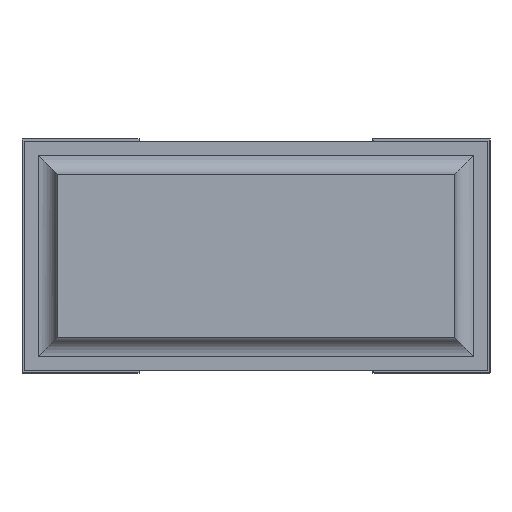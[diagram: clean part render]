
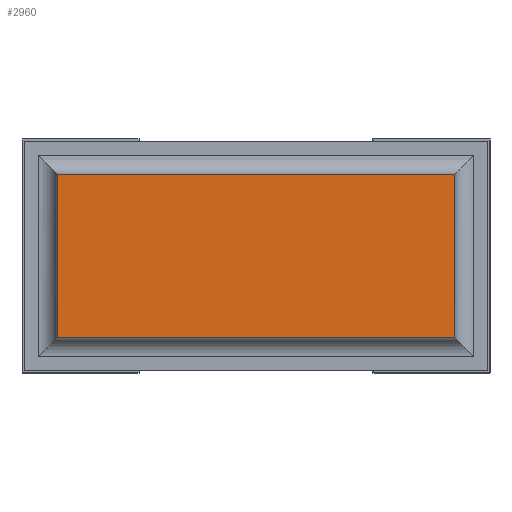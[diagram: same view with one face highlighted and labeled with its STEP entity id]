
A CAD part, front view. The second image highlights one B-rep face of the part: STEP entity #2960.
In plain terms, the highlighted planar face has unit normal (0, -1, 0).
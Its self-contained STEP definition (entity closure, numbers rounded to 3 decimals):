
#186=FACE_OUTER_BOUND('',#351,.T.);
#351=EDGE_LOOP('',(#2277,#2278,#2279,#2280));
#599=LINE('',#4473,#973);
#603=LINE('',#4487,#977);
#612=LINE('',#4503,#986);
#613=LINE('',#4505,#987);
#973=VECTOR('',#3626,10.);
#977=VECTOR('',#3638,10.);
#986=VECTOR('',#3653,10.);
#987=VECTOR('',#3656,10.);
#1315=VERTEX_POINT('',#4469);
#1316=VERTEX_POINT('',#4471);
#1321=VERTEX_POINT('',#4484);
#1322=VERTEX_POINT('',#4486);
#1653=EDGE_CURVE('',#1315,#1316,#599,.T.);
#1659=EDGE_CURVE('',#1321,#1322,#603,.T.);
#1668=EDGE_CURVE('',#1315,#1321,#612,.T.);
#1669=EDGE_CURVE('',#1322,#1316,#613,.T.);
#2277=ORIENTED_EDGE('',*,*,#1659,.F.);
#2278=ORIENTED_EDGE('',*,*,#1668,.F.);
#2279=ORIENTED_EDGE('',*,*,#1653,.T.);
#2280=ORIENTED_EDGE('',*,*,#1669,.F.);
#2819=PLANE('',#3177);
#2960=ADVANCED_FACE('',(#186),#2819,.T.);
#3177=AXIS2_PLACEMENT_3D('',#4504,#3654,#3655);
#3626=DIRECTION('',(0.,0.,-1.));
#3638=DIRECTION('',(0.,0.,-1.));
#3653=DIRECTION('',(1.,0.,0.));
#3654=DIRECTION('center_axis',(0.,-1.,0.));
#3655=DIRECTION('ref_axis',(0.,0.,-1.));
#3656=DIRECTION('',(-1.,0.,0.));
#4469=CARTESIAN_POINT('',(0.075,0.,0.425));
#4471=CARTESIAN_POINT('',(0.075,0.,0.075));
#4473=CARTESIAN_POINT('',(0.075,0.,0.425));
#4484=CARTESIAN_POINT('',(0.925,0.,0.425));
#4486=CARTESIAN_POINT('',(0.925,0.,0.075));
#4487=CARTESIAN_POINT('',(0.925,0.,0.425));
#4503=CARTESIAN_POINT('',(0.075,0.,0.425));
#4504=CARTESIAN_POINT('Origin',(0.926,0.,0.25));
#4505=CARTESIAN_POINT('',(0.925,0.,0.075));
